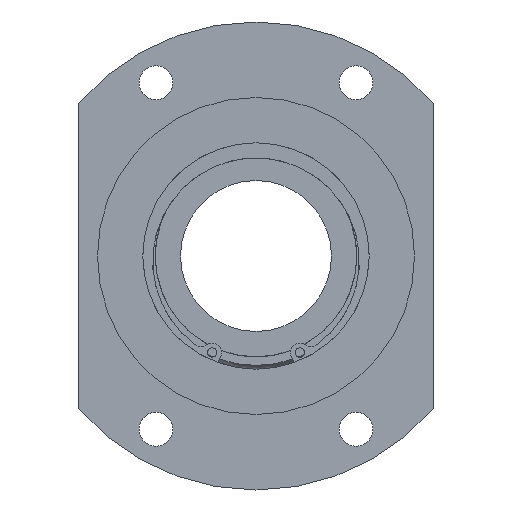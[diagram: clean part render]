
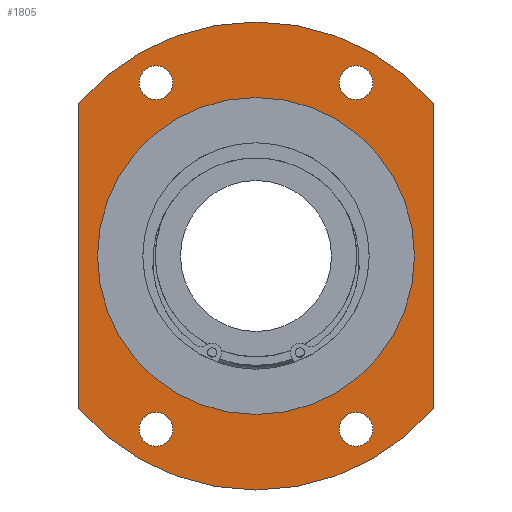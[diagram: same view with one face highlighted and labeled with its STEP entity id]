
A CAD part, left-side view. The second image highlights one B-rep face of the part: STEP entity #1805.
In plain terms, the highlighted planar face has unit normal (-1, 0, 0).
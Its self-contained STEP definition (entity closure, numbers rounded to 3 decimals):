
#1565=CARTESIAN_POINT('',(14.,31.,-45.899));
#1566=VERTEX_POINT('',#1565);
#1567=CARTESIAN_POINT('',(14.,26.5,-45.899));
#1568=DIRECTION('',(1.0,0.0,0.0));
#1569=DIRECTION('',(0.0,1.0,0.0));
#1570=AXIS2_PLACEMENT_3D('',#1567,#1568,#1569);
#1571=CIRCLE('',#1570,4.5);
#1572=EDGE_CURVE('',#1566,#1566,#1571,.T.);
#1593=CARTESIAN_POINT('',(14.,-22.,45.899));
#1594=VERTEX_POINT('',#1593);
#1595=CARTESIAN_POINT('',(14.,-26.5,45.899));
#1596=DIRECTION('',(1.0,0.0,0.0));
#1597=DIRECTION('',(0.0,1.0,0.0));
#1598=AXIS2_PLACEMENT_3D('',#1595,#1596,#1597);
#1599=CIRCLE('',#1598,4.5);
#1600=EDGE_CURVE('',#1594,#1594,#1599,.T.);
#1621=CARTESIAN_POINT('',(14.,31.,45.899));
#1622=VERTEX_POINT('',#1621);
#1623=CARTESIAN_POINT('',(14.,26.5,45.899));
#1624=DIRECTION('',(1.0,0.0,0.0));
#1625=DIRECTION('',(0.0,1.0,0.0));
#1626=AXIS2_PLACEMENT_3D('',#1623,#1624,#1625);
#1627=CIRCLE('',#1626,4.5);
#1628=EDGE_CURVE('',#1622,#1622,#1627,.T.);
#1649=CARTESIAN_POINT('',(14.,-22.,-45.899));
#1650=VERTEX_POINT('',#1649);
#1651=CARTESIAN_POINT('',(14.,-26.5,-45.899));
#1652=DIRECTION('',(1.0,0.0,0.0));
#1653=DIRECTION('',(0.0,1.0,0.0));
#1654=AXIS2_PLACEMENT_3D('',#1651,#1652,#1653);
#1655=CIRCLE('',#1654,4.5);
#1656=EDGE_CURVE('',#1650,#1650,#1655,.T.);
#1676=CARTESIAN_POINT('',(14.,47.,-40.435));
#1677=VERTEX_POINT('',#1676);
#1684=CARTESIAN_POINT('',(14.,47.,40.435));
#1685=VERTEX_POINT('',#1684);
#1686=CARTESIAN_POINT('',(14.,47.,40.435));
#1687=DIRECTION('',(0.0,0.0,-1.0));
#1688=VECTOR('',#1687,80.87);
#1689=LINE('',#1686,#1688);
#1690=EDGE_CURVE('',#1685,#1677,#1689,.T.);
#1716=CARTESIAN_POINT('',(14.,-47.,40.435));
#1717=VERTEX_POINT('',#1716);
#1724=CARTESIAN_POINT('',(14.,-47.,-40.435));
#1725=VERTEX_POINT('',#1724);
#1726=CARTESIAN_POINT('',(14.,-47.,-40.435));
#1727=DIRECTION('',(0.0,0.0,1.0));
#1728=VECTOR('',#1727,80.87);
#1729=LINE('',#1726,#1728);
#1730=EDGE_CURVE('',#1725,#1717,#1729,.T.);
#1755=CARTESIAN_POINT('',(14.,0.0,0.0));
#1756=DIRECTION('',(-1.0,0.0,0.0));
#1757=DIRECTION('',(0.0,0.0,1.0));
#1758=AXIS2_PLACEMENT_3D('',#1755,#1756,#1757);
#1759=CIRCLE('',#1758,62.0);
#1760=EDGE_CURVE('',#1677,#1725,#1759,.T.);
#1765=CARTESIAN_POINT('',(14.,0.0,52.0));
#1766=DIRECTION('',(-1.0,0.0,0.0));
#1767=DIRECTION('',(0.0,0.0,1.0));
#1768=AXIS2_PLACEMENT_3D('',#1765,#1766,#1767);
#1769=PLANE('',#1768);
#1770=ORIENTED_EDGE('',*,*,#1690,.T.);
#1771=ORIENTED_EDGE('',*,*,#1760,.T.);
#1772=ORIENTED_EDGE('',*,*,#1730,.T.);
#1773=CARTESIAN_POINT('',(14.,0.0,0.0));
#1774=DIRECTION('',(-1.0,0.0,0.0));
#1775=DIRECTION('',(0.0,0.0,1.0));
#1776=AXIS2_PLACEMENT_3D('',#1773,#1774,#1775);
#1777=CIRCLE('',#1776,62.0);
#1778=EDGE_CURVE('',#1717,#1685,#1777,.T.);
#1779=ORIENTED_EDGE('',*,*,#1778,.T.);
#1780=EDGE_LOOP('',(#1770,#1771,#1772,#1779));
#1781=FACE_OUTER_BOUND('',#1780,.T.);
#1782=ORIENTED_EDGE('',*,*,#1572,.T.);
#1783=EDGE_LOOP('',(#1782));
#1784=FACE_BOUND('',#1783,.T.);
#1785=ORIENTED_EDGE('',*,*,#1600,.T.);
#1786=EDGE_LOOP('',(#1785));
#1787=FACE_BOUND('',#1786,.T.);
#1788=ORIENTED_EDGE('',*,*,#1628,.T.);
#1789=EDGE_LOOP('',(#1788));
#1790=FACE_BOUND('',#1789,.T.);
#1791=ORIENTED_EDGE('',*,*,#1656,.T.);
#1792=EDGE_LOOP('',(#1791));
#1793=FACE_BOUND('',#1792,.T.);
#1794=CARTESIAN_POINT('',(14.,0.0,42.0));
#1795=VERTEX_POINT('',#1794);
#1796=CARTESIAN_POINT('',(14.,0.0,0.0));
#1797=DIRECTION('',(-1.0,0.0,0.0));
#1798=DIRECTION('',(0.0,0.0,1.0));
#1799=AXIS2_PLACEMENT_3D('',#1796,#1797,#1798);
#1800=CIRCLE('',#1799,42.0);
#1801=EDGE_CURVE('',#1795,#1795,#1800,.T.);
#1802=ORIENTED_EDGE('',*,*,#1801,.F.);
#1803=EDGE_LOOP('',(#1802));
#1804=FACE_BOUND('',#1803,.T.);
#1805=ADVANCED_FACE('',(#1781,#1784,#1787,#1790,#1793,#1804),#1769,.T.);
